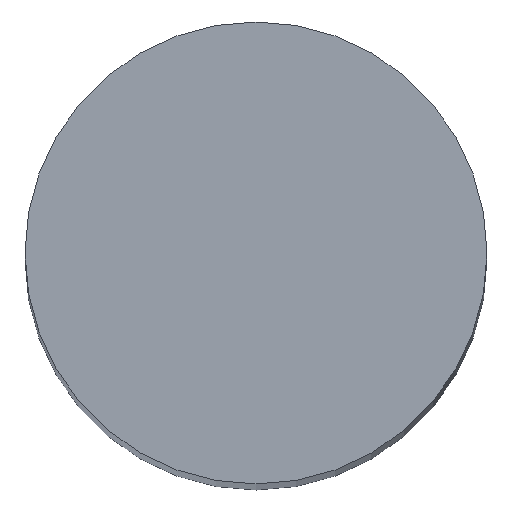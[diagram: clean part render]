
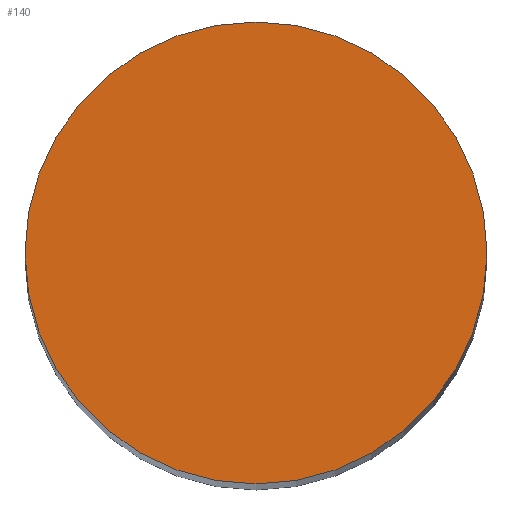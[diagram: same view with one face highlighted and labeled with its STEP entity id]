
A CAD part, top view. The second image highlights one B-rep face of the part: STEP entity #140.
In plain terms, the highlighted planar face has unit normal (0, 0, 1).
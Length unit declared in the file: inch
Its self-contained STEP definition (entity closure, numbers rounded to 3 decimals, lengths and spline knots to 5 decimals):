
#115=CARTESIAN_POINT('',(0.0,-0.15745,2.48031));
#116=VERTEX_POINT('',#115);
#117=CARTESIAN_POINT('',(0.0,0.15745,2.48031));
#118=VERTEX_POINT('',#117);
#119=CARTESIAN_POINT('',(0.0,0.0,2.48031));
#120=DIRECTION('',(0.0,-0.0,-1.0));
#121=DIRECTION('',(0.0,1.0,-0.0));
#122=AXIS2_PLACEMENT_3D('',#119,#120,#121);
#123=CIRCLE('',#122,0.15745);
#124=EDGE_CURVE('no 1474',#116,#118,#123,.T.);
#125=ORIENTED_EDGE('',*,*,#124,.F.);
#126=CARTESIAN_POINT('',(0.0,0.0,2.48031));
#127=DIRECTION('',(0.0,-0.0,-1.0));
#128=DIRECTION('',(0.0,1.0,-0.0));
#129=AXIS2_PLACEMENT_3D('',#126,#127,#128);
#130=CIRCLE('',#129,0.15745);
#131=EDGE_CURVE('no 1502',#118,#116,#130,.T.);
#132=ORIENTED_EDGE('',*,*,#131,.F.);
#133=EDGE_LOOP('',(#125,#132));
#134=FACE_OUTER_BOUND('',#133,.T.);
#135=CARTESIAN_POINT('',(0.0,0.0,2.48031));
#136=DIRECTION('',(0.0,0.0,1.0));
#137=DIRECTION('',(0.0,-1.0,0.0));
#138=AXIS2_PLACEMENT_3D('',#135,#136,#137);
#139=PLANE('',#138);
#140=ADVANCED_FACE('no 1524',(#134),#139,.T.);
